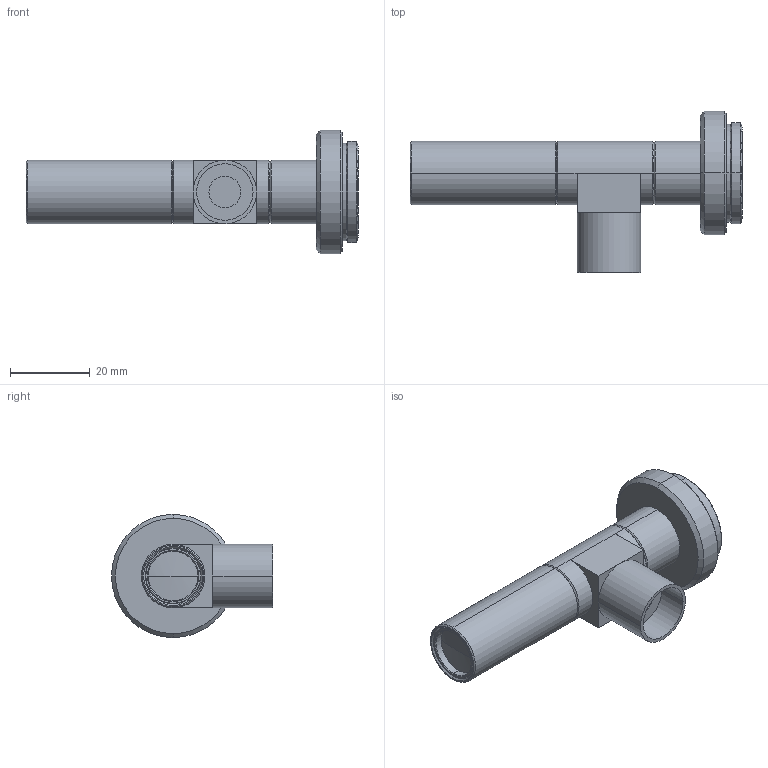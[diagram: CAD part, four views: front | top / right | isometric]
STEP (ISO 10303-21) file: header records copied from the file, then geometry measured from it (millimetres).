
FILE_DESCRIPTION (( 'STEP AP203' ), '1' );
FILE_NAME ('VS-TC1-110CO.STEP', '2015-08-28T05:48:41', ( 'miura_vst' ), ( '' ), 'SwSTEP 2.0', 'SolidWorks 2015', '' );
FILE_SCHEMA (( 'CONFIG_CONTROL_DESIGN' ));
Length unit declared in the file: millimetre
Products named in the file (1): VS-TC1-110CO
Bounding box: 83.47 x 40.5 x 31 mm (x, y, z)
Volume: 21393.2 mm3; surface area: 8254.5 mm2
Topology: 1 solids, 1 shells, 98 faces, 200 edges, 116 vertices
Faces by surface type: cone 38, cylinder 35, plane 21, sphere 4
Entity records: 2637 total; most frequent: DIRECTION 510, CARTESIAN_POINT 415, ORIENTED_EDGE 400, AXIS2_PLACEMENT_3D 211, EDGE_CURVE 200, VERTEX_POINT 116, CIRCLE 112, EDGE_LOOP 110
